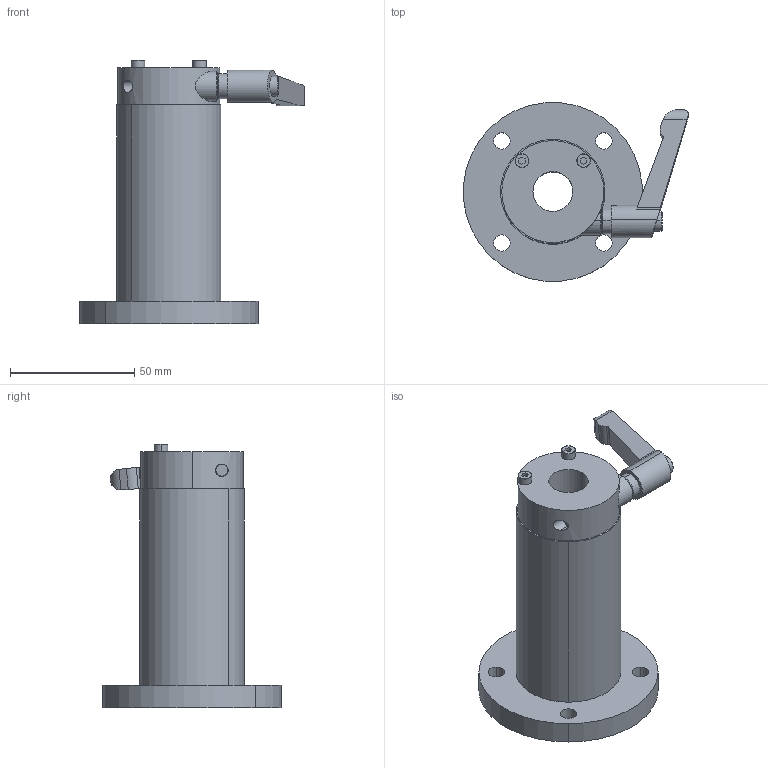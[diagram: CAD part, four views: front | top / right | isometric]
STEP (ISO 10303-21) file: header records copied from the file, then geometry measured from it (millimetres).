
FILE_DESCRIPTION (( 'STEP AP214' ), '1' );
FILE_NAME ('LFW16-CS.STEP', '2023-06-27T01:51:34', ( '' ), ( '' ), 'SwSTEP 2.0', 'SolidWorks 2019', '' );
FILE_SCHEMA (( 'AUTOMOTIVE_DESIGN' ));
Length unit declared in the file: millimetre
Products named in the file (3): LFW16; “ÁSCK1615SS-S3.4; LFW16-CS
Assembly tree (2 placements, depth 2):
  LFW16-CS
    LFW16
    “ÁSCK1615SS-S3.4
Bounding box: 90.36 x 71.73 x 106 mm (x, y, z)
Volume: 143800.4 mm3; surface area: 38037.9 mm2
Topology: 3 solids, 8 shells, 189 faces, 463 edges, 294 vertices
Faces by surface type: cylinder 76, plane 55, bspline 39, cone 11, torus 8
Entity records: 8286 total; most frequent: CARTESIAN_POINT 1837, DIRECTION 982, ORIENTED_EDGE 926, EDGE_CURVE 463, AXIS2_PLACEMENT_3D 407, VERTEX_POINT 294, CIRCLE 252, EDGE_LOOP 231
